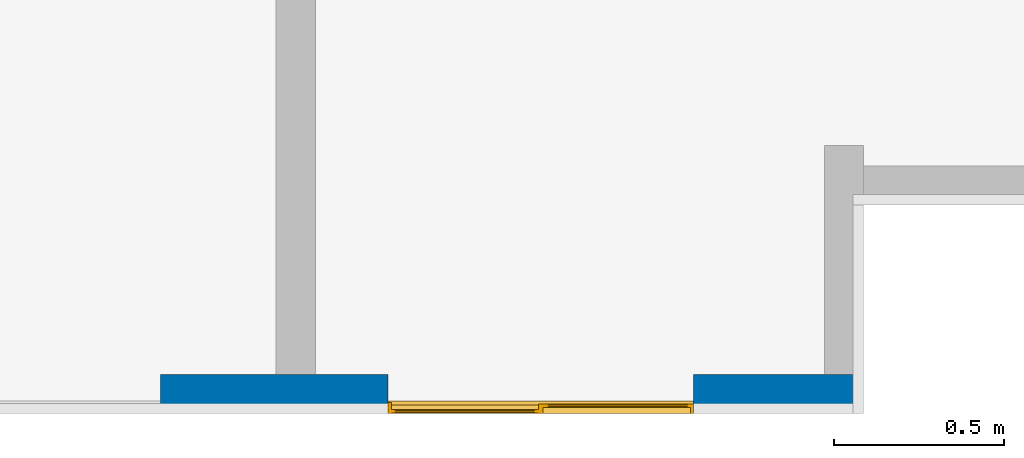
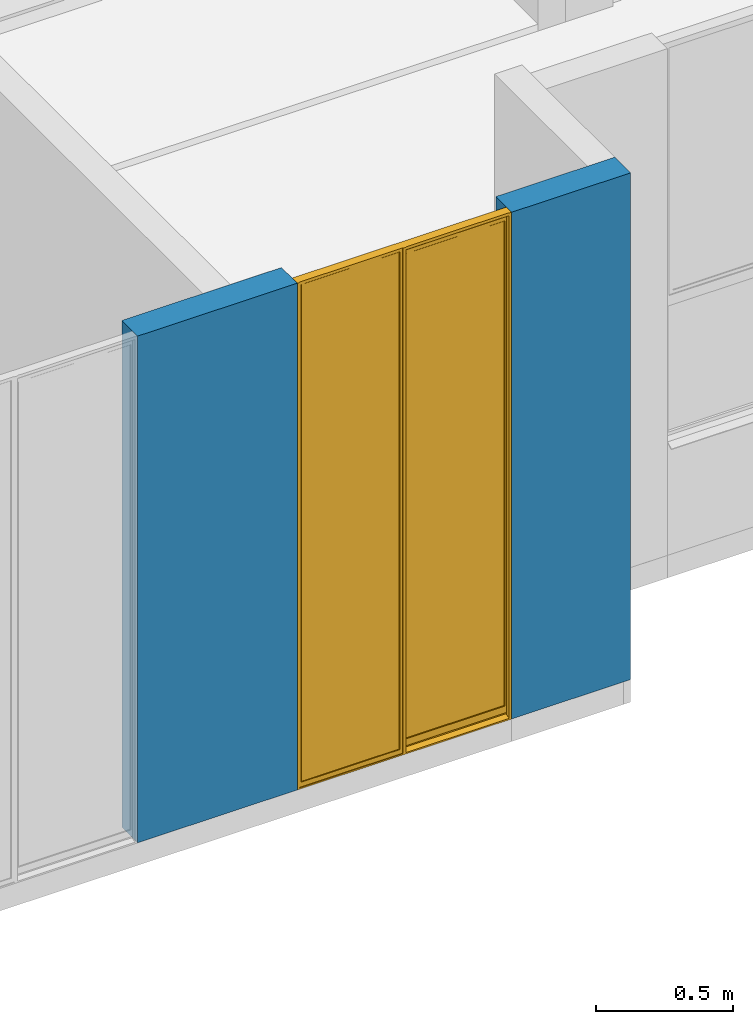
# One storey, part 4 of 48: 1 wall, 1 window, 2 openings.
"""IFC4 building model written with IfcOpenShell, lengths in metres."""

from ifc_helpers import new_model, entity, si_unit, converted_unit, derived_unit, direction, frame, origin, place, context, subcontext, project, spatial, indexed_curve, outline, extrude, polygons, source, transform, mapped, material, constituent, constituent_set, type_object, type_shapes, element, fill, save


model = new_model("IFC4")

# Units and contexts
model_context = context("Model", 3, precision=1e-05, world=origin(), true_north=direction((6.123031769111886e-17, 1.0)))
body_context = subcontext(model_context, "Body", "Model", "MODEL_VIEW")
ifc_project = project(units=[si_unit("LENGTHUNIT", "METRE"), si_unit("AREAUNIT", "SQUARE_METRE"), si_unit("VOLUMEUNIT", "CUBIC_METRE"), converted_unit("PLANEANGLEUNIT", "DEGREE", entity("IfcRatioMeasure", 0.017453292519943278), si_unit("PLANEANGLEUNIT", "RADIAN"), dimensions=[0, 0, 0, 0, 0, 0, 0]), si_unit("MASSUNIT", "GRAM", prefix="KILO"), derived_unit("MASSDENSITYUNIT", [(si_unit("MASSUNIT", "GRAM", prefix="KILO"), 1), (si_unit("LENGTHUNIT", "METRE"), -3)]), derived_unit("IONCONCENTRATIONUNIT", [(si_unit("MASSUNIT", "GRAM", prefix="KILO"), 1), (si_unit("LENGTHUNIT", "METRE"), -3)]), derived_unit("MOMENTOFINERTIAUNIT", [(si_unit("LENGTHUNIT", "METRE"), 4)]), si_unit("TIMEUNIT", "SECOND"), si_unit("FREQUENCYUNIT", "HERTZ"), si_unit("THERMODYNAMICTEMPERATUREUNIT", "DEGREE_CELSIUS"), derived_unit("THERMALTRANSMITTANCEUNIT", [(si_unit("MASSUNIT", "GRAM", prefix="KILO"), 1), (si_unit("THERMODYNAMICTEMPERATUREUNIT", "KELVIN"), -1), (si_unit("TIMEUNIT", "SECOND"), -3)]), derived_unit("THERMALCONDUCTANCEUNIT", [(si_unit("MASSUNIT", "GRAM", prefix="KILO"), 1), (si_unit("THERMODYNAMICTEMPERATUREUNIT", "KELVIN"), -1), (si_unit("TIMEUNIT", "SECOND"), -3), (si_unit("LENGTHUNIT", "METRE"), 1)]), derived_unit("VOLUMETRICFLOWRATEUNIT", [(si_unit("LENGTHUNIT", "METRE"), 3), (si_unit("TIMEUNIT", "SECOND"), -1)]), derived_unit("MASSFLOWRATEUNIT", [(si_unit("MASSUNIT", "GRAM", prefix="KILO"), 1), (si_unit("TIMEUNIT", "SECOND"), -1)]), derived_unit("ROTATIONALFREQUENCYUNIT", [(si_unit("TIMEUNIT", "SECOND"), -1)]), si_unit("ELECTRICCURRENTUNIT", "AMPERE"), si_unit("ELECTRICVOLTAGEUNIT", "VOLT"), si_unit("POWERUNIT", "WATT"), si_unit("FORCEUNIT", "NEWTON", prefix="KILO"), si_unit("ILLUMINANCEUNIT", "LUX"), si_unit("LUMINOUSFLUXUNIT", "LUMEN"), si_unit("LUMINOUSINTENSITYUNIT", "CANDELA"), derived_unit("USERDEFINED", [(si_unit("MASSUNIT", "GRAM", prefix="KILO"), -1), (si_unit("LENGTHUNIT", "METRE"), -2), (si_unit("TIMEUNIT", "SECOND"), 3), (si_unit("LUMINOUSFLUXUNIT", "LUMEN"), 1)]), derived_unit("USERDEFINED", [(si_unit("MASSUNIT", "GRAM", prefix="KILO"), 1), (si_unit("TIMEUNIT", "SECOND"), -3), (si_unit("LENGTHUNIT", "METRE"), 3), (si_unit("ELECTRICCURRENTUNIT", "AMPERE"), -2)]), derived_unit("SOUNDPOWERUNIT", [(si_unit("MASSUNIT", "GRAM", prefix="KILO"), 1), (si_unit("TIMEUNIT", "SECOND"), -3), (si_unit("LENGTHUNIT", "METRE"), 2)]), derived_unit("SOUNDPRESSUREUNIT", [(si_unit("MASSUNIT", "GRAM", prefix="KILO"), 1), (si_unit("LENGTHUNIT", "METRE"), -1), (si_unit("TIMEUNIT", "SECOND"), -2)]), derived_unit("LINEARVELOCITYUNIT", [(si_unit("LENGTHUNIT", "METRE"), 1), (si_unit("TIMEUNIT", "SECOND"), -1)]), si_unit("PRESSUREUNIT", "PASCAL"), derived_unit("USERDEFINED", [(si_unit("MASSUNIT", "GRAM", prefix="KILO"), 1), (si_unit("LENGTHUNIT", "METRE"), -2), (si_unit("TIMEUNIT", "SECOND"), -2)]), derived_unit("LINEARFORCEUNIT", [(si_unit("MASSUNIT", "GRAM", prefix="KILO"), 1), (si_unit("TIMEUNIT", "SECOND"), -2)]), derived_unit("PLANARFORCEUNIT", [(si_unit("MASSUNIT", "GRAM", prefix="KILO"), 1), (si_unit("LENGTHUNIT", "METRE"), -1), (si_unit("TIMEUNIT", "SECOND"), -2)]), derived_unit("SPECIFICHEATCAPACITYUNIT", [(si_unit("THERMODYNAMICTEMPERATUREUNIT", "KELVIN"), -1), (si_unit("LENGTHUNIT", "METRE"), 2), (si_unit("TIMEUNIT", "SECOND"), -2)]), derived_unit("HEATINGVALUEUNIT", [(si_unit("LENGTHUNIT", "METRE"), 2), (si_unit("TIMEUNIT", "SECOND"), -2)]), derived_unit("VAPORPERMEABILITYUNIT", [(si_unit("LENGTHUNIT", "METRE"), -1), (si_unit("TIMEUNIT", "SECOND"), 1)]), derived_unit("DYNAMICVISCOSITYUNIT", [(si_unit("MASSUNIT", "GRAM", prefix="KILO"), 1), (si_unit("TIMEUNIT", "SECOND"), -1), (si_unit("LENGTHUNIT", "METRE"), -1)]), derived_unit("THERMALEXPANSIONCOEFFICIENTUNIT", [(si_unit("THERMODYNAMICTEMPERATUREUNIT", "KELVIN"), -1)]), derived_unit("MODULUSOFELASTICITYUNIT", [(si_unit("MASSUNIT", "GRAM", prefix="KILO"), 1), (si_unit("LENGTHUNIT", "METRE"), -1), (si_unit("TIMEUNIT", "SECOND"), -2)]), derived_unit("ISOTHERMALMOISTURECAPACITYUNIT", [(si_unit("LENGTHUNIT", "METRE"), 3), (si_unit("MASSUNIT", "GRAM", prefix="KILO"), -1)]), derived_unit("MOISTUREDIFFUSIVITYUNIT", [(si_unit("TIMEUNIT", "SECOND"), -1), (si_unit("LENGTHUNIT", "METRE"), 2)])], contexts=[model_context])

# Site, building, storey
site_placement = place(None, origin())
site = spatial("IfcSite", under=ifc_project, at=site_placement, Name="Default", CompositionType="ELEMENT")
building_placement = place(site_placement, origin())
building = spatial("IfcBuilding", under=site, at=building_placement, CompositionType="ELEMENT")
storey_placement = place(building_placement, frame((0.0, 0.0, 9.40000000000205)))
storey = spatial("IfcBuildingStorey", under=building, at=storey_placement, Name="Nivel 5", CompositionType="ELEMENT", Elevation=9.40000000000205)

# Wall, openings, window
ifc_material_1 = material(Name="Ladrillo claro (Aire)", Category="Materials")
wall_type = type_object("IfcWallType", Name="Basic Wall:B2010 - 0.115m - Muro exterior en mampostería - Ladrillo", PredefinedType="STANDARD")
wall_placement = place(storey_placement, frame((6.182499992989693, -12.812500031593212, 0.0), z_axis=(0.0, 0.0, 1.0), x_axis=(-1.0, 0.0, 0.0)))
wall = element("IfcWall", 1, at=wall_placement, inside=storey, type_object=wall_type, material=ifc_material_1, Name="Basic Wall:B2010 - 0.115m - Muro exterior en mampostería - Ladrillo", ObjectType="Basic Wall:B2010 - 0.115m - Muro exterior en mampostería - Ladrillo", PredefinedType="NOTDEFINED", context=body_context, shape_type="Tessellation", body=[
    polygons([(7.744918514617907e-16, -0.057499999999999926, 2.250000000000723), (7.744918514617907e-16, -0.057499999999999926, -1.0828671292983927e-15), (0.11500000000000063, -0.057499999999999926, -1.0828671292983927e-15), (0.5000000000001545, -0.057499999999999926, -1.0828671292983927e-15), (0.5000000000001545, -0.057499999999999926, 2.250000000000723), (0.11500000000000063, -0.057499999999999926, 2.250000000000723), (1.371029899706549e-16, 0.057499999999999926, -1.0828671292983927e-15), (0.500000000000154, 0.057499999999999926, -1.0828671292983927e-15), (0.500000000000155, 0.057499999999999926, 2.250000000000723), (1.371029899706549e-16, 0.057499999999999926, 2.250000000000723)], [[[1, 2, 3, 4, 5, 6]], [[2, 7, 8, 4, 3]], [[5, 4, 8, 9]], [[2, 1, 10, 7]], [[10, 1, 6, 5, 9]], [[7, 10, 9, 8]]], closed=True),
    polygons([(2.0707999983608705, 0.057499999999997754, 2.250000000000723), (2.0707999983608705, 0.057499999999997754, -1.0828671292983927e-15), (1.4000000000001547, 0.057499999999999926, -1.0828671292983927e-15), (1.4000000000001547, 0.057499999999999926, 2.250000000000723), (2.07079999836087, -0.05750000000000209, 2.250000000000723), (1.4000000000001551, -0.057499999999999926, 2.250000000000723), (1.6149999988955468, -0.057499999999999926, 2.250000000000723), (1.7299999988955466, -0.057499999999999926, 2.250000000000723), (2.07079999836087, -0.05750000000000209, -1.0828671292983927e-15), (1.4000000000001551, -0.057499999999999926, -1.0828671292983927e-15), (1.729999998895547, -0.057499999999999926, -1.0828671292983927e-15), (1.6149999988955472, -0.057499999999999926, -1.0828671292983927e-15)], [[[1, 2, 3, 4]], [[5, 1, 4, 6, 7, 8]], [[5, 9, 2, 1]], [[10, 6, 4, 3]], [[2, 9, 11, 12, 10, 3]], [[9, 5, 8, 7, 6, 10, 12, 11]]], closed=True),
])
opening_1_placement = place(wall_placement, frame((3.0907999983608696, 0.057499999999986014, 0.0)))
element("IfcOpeningElement", 2, at=opening_1_placement, cuts=wall, Name="B2020 - Ventana corrediza 2C - Aluminio + Vidrio:B2020 - 1.02m x 2.25m - Ventana corrediza 2C - Aluminio + Vidrio:1", PredefinedType="OPENING", context=body_context, shape_type="SweptSolid", body=[
    extrude(outline(indexed_curve([(0.0, -7.326610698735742e-30), (2.2499999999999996, -7.326610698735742e-30), (2.249999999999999, 1.0199999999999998), (0.0, 1.0199999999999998), (0.0, -7.326610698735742e-30)], self_intersect=False)), frame((0.0, 0.0, 0.0), z_axis=(0.0, -1.0, 0.0), x_axis=(0.0, 0.0, 1.0)), (0.0, 0.0, 1.0), 0.115),
])
opening_2_placement = place(wall_placement, frame((1.4000000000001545, 0.05749999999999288, 0.0)))
opening_2 = element("IfcOpeningElement", 3, at=opening_2_placement, cuts=wall, Name="B2020 - Ventana corrediza 2C - Aluminio + Vidrio:B2020 - 0.90m x 2.25m - Ventana corrediza 2C - Aluminio + Vidrio:1", PredefinedType="OPENING", context=body_context, shape_type="SweptSolid", body=[
    extrude(outline(indexed_curve([(0.0, 1.3535839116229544e-16), (2.2499999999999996, 1.3535839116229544e-16), (2.249999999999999, 0.9), (0.0, 0.9), (0.0, 1.3535839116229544e-16)], self_intersect=False)), frame((0.0, 0.0, 0.0), z_axis=(0.0, -1.0, 0.0), x_axis=(0.0, 0.0, 1.0)), (0.0, 0.0, 1.0), 0.115),
])
ifc_material_2 = material(Name="Vidrio", Category="Materials")
ifc_constituent_1 = constituent(ifc_material_2, Name="Vidrio", Category="Materials")
ifc_material_3 = material(Name="<Unnamed>")
ifc_constituent_2 = constituent(ifc_material_3, Name="<Unnamed>")
ifc_constituent_set_1 = constituent_set(constituents=[ifc_constituent_1, ifc_constituent_2])
ifc_constituent_3 = constituent(ifc_material_2, Name="Vidrio", Category="Materials")
ifc_constituent_4 = constituent(ifc_material_3, Name="<Unnamed>")
ifc_constituent_set_2 = constituent_set(constituents=[ifc_constituent_3, ifc_constituent_4])
window_type = type_object("IfcWindowType", Name="B2020 - Ventana corrediza 2C - Aluminio + Vidrio:B2020 - 0.90m x 2.25m - Ventana corrediza 2C - Aluminio + Vidrio", PartitioningType="NOTDEFINED", PredefinedType="WINDOW", material=ifc_constituent_set_2)
shared_shape = source(origin(), body_context, "Body", "Tessellation", [
    polygons([(0.4701871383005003, 0.11311505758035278, 0.028641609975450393), (0.8800323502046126, 0.11311505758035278, 0.028641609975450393), (0.8800323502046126, 0.10801372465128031, 0.028641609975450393), (0.4701871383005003, 0.10801372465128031, 0.028641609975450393), (0.4701871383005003, 0.11311505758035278, 2.2347073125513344), (0.4701871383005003, 0.10801372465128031, 2.2347073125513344), (0.8800323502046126, 0.10801372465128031, 2.2347073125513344), (0.8800323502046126, 0.11311505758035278, 2.2347073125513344)], [[[1, 2, 3, 4]], [[5, 1, 4, 6]], [[6, 4, 3, 7]], [[7, 3, 2, 8]], [[8, 2, 1, 5]], [[5, 6, 7, 8]]], closed=True),
    polygons([(0.01884633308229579, 0.0962952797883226, 0.054189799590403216), (0.4282710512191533, 0.0962952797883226, 0.054189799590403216), (0.4282710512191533, 0.09199928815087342, 0.054189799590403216), (0.01884633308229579, 0.09199928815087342, 0.054189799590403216), (0.01884633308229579, 0.0962952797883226, 2.2043993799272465), (0.01884633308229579, 0.09199928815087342, 2.2043993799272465), (0.4282710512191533, 0.09199928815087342, 2.2043993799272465), (0.4282710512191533, 0.0962952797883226, 2.2043993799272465)], [[[1, 2, 3, 4]], [[5, 1, 4, 6]], [[6, 4, 3, 7]], [[7, 3, 2, 8]], [[8, 2, 1, 5]], [[5, 6, 7, 8]]], closed=True),
    polygons([(1.610764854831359e-14, 0.08248628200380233, 0.020380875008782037), (1.610764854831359e-14, 0.07981389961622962, 0.020380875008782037), (1.610764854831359e-14, 0.07981389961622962, 0.025674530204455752), (1.610764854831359e-14, 0.08106389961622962, 0.025674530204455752), (1.610764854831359e-14, 0.08106389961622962, 0.02163087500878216), (1.610764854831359e-14, 0.08373628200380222, 0.02163087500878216), (1.610764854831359e-14, 0.08373628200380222, 0.017447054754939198), (1.610764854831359e-14, 0.08932238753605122, 0.017447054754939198), (1.610764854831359e-14, 0.08932238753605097, 2.24863686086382), (1.5972290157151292e-14, 0.0810593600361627, 2.24863686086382), (1.5972290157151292e-14, 0.0810593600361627, 2.2365872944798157), (1.5972290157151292e-14, 0.07969622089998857, 2.2365872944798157), (1.5972290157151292e-14, 0.07969622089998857, 2.2499999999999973), (1.610764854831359e-14, 0.11748628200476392, 2.2499999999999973), (1.5972290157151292e-14, 0.1174862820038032, -2.5718094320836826e-15), (1.610764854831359e-14, 0.08248628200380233, -2.5718094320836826e-15), (0.900000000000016, 0.08248628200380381, 0.020380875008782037), (0.900000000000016, 0.08248628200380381, -2.5718094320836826e-15), (0.900000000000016, 0.11748628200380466, -2.5718094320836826e-15), (0.45664549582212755, 0.11748628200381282, 2.2499999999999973), (0.45664549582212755, 0.11748628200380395, 0.006176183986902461), (0.8900000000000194, 0.11748628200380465, 0.006176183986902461), (0.8900000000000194, 0.11748628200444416, 2.2499999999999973), (0.900000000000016, 0.11748628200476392, 2.2499999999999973), (0.009897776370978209, 0.11748628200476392, 2.2499999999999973), (0.009897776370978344, 0.1174862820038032, 0.006176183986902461), (0.4433545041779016, 0.11748628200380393, 0.006176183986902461), (0.4433545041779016, 0.11748628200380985, 2.2499999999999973), (0.016298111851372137, 0.0893223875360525, 2.2069861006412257), (0.4433545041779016, 0.0893223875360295, 2.2069861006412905), (0.4433545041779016, 0.08932238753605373, 2.2043993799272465), (0.430819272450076, 0.08932238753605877, 2.2043993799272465), (0.4308192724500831, 0.08932238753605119, 0.0519155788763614), (0.01629811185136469, 0.08932238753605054, 0.0519155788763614), (0.016298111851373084, 0.08932238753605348, 2.237270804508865), (0.01629811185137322, 0.08932238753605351, 2.24863686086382), (0.0037628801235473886, 0.08932238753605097, 0.017447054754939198), (0.0037628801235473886, 0.0893223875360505, 0.02163087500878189), (0.4433545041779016, 0.0893223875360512, 0.021630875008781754), (0.4433545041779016, 0.08932238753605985, 0.017447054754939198), (0.4580471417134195, 0.08932238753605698, 0.017447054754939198), (0.4580471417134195, 0.0893223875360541, 2.24863686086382), (0.4433545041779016, 0.08932238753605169, 2.24863686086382), (0.4433545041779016, 0.08932238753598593, 2.237270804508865), (0.900000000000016, 0.08373628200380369, 0.017447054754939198), (0.900000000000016, 0.08548628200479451, 0.017447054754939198), (0.8900000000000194, 0.08548628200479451, 0.017447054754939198), (0.8900000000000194, 0.09284764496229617, 0.017447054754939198), (0.4580471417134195, 0.09284764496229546, 0.017447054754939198), (0.4433545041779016, 0.09284764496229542, 0.017447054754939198), (0.0037628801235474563, 0.09284764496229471, 0.017447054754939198), (0.900000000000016, 0.08373628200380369, 0.02163087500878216), (0.900000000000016, 0.08106389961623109, 0.02163087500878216), (0.900000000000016, 0.08106389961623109, 0.025674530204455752), (0.900000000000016, 0.07981389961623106, 0.025674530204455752), (0.900000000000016, 0.07981389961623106, 0.020380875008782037), (0.01884290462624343, 0.09629339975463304, 0.054191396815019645), (0.4282772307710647, 0.09629080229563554, 0.054191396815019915), (0.4308192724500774, 0.09897218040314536, 0.051915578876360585), (0.016298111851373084, 0.09897218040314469, 0.051915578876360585), (0.01629811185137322, 0.09897218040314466, 2.237270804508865), (0.01629811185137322, 0.09897218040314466, 2.24863686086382), (0.018846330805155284, 0.0962732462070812, 2.24863686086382), (0.018846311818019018, 0.0962733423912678, 2.237270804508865), (0.430819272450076, 0.09897218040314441, 2.2043993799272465), (0.4433545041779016, 0.09897218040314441, 2.2043993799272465), (0.4433545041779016, 0.09897218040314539, 0.02163087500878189), (0.009897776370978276, 0.09897218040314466, 0.021630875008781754), (0.009897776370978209, 0.09897218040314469, 2.24863686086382), (0.4433545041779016, 0.09897218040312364, 2.237270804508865), (0.4433545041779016, 0.09897218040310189, 2.2069861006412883), (0.01629811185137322, 0.09897218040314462, 2.2069861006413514), (0.4282710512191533, 0.09628602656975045, 2.2043993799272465), (0.01884015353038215, 0.09200376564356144, 0.05419139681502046), (0.42827447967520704, 0.09200116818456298, 0.05419139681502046), (0.018846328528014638, 0.09202132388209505, 2.24863686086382), (0.01884629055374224, 0.09202124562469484, 2.237270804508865), (0.4282710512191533, 0.09200843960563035, 2.204399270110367), (0.4580471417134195, 0.09284764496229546, 0.011279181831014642), (0.4580471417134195, 0.09612320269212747, 0.010600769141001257), (0.4580471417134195, 0.09612320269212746, 0.014402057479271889), (0.4580471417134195, 0.10582811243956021, 0.014402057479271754), (0.4580471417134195, 0.1058281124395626, 2.24863686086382), (0.4433545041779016, 0.09199945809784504, 2.204399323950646), (0.0037628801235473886, 0.09897218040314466, 0.02163087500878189), (0.0037628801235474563, 0.09284764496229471, 0.011279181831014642), (0.0037628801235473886, 0.09897218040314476, 0.010010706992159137), (0.009897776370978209, 0.09897218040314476, 0.010010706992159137), (0.009897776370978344, 0.1153006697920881, 2.2499999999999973), (0.009897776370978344, 0.11530066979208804, 2.2369062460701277), (0.009897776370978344, 0.11310173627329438, 2.234707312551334), (0.009897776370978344, 0.1080270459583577, 2.234707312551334), (0.009897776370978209, 0.10582811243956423, 2.2369062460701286), (0.009897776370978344, 0.10582811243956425, 2.24863686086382), (0.900000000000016, 0.07969622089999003, 2.2499999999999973), (0.900000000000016, 0.07969622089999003, 2.2365872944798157), (0.900000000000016, 0.08105936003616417, 2.2365872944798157), (0.900000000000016, 0.08105936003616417, 2.24863686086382), (0.900000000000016, 0.08548628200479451, 2.24863686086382), (0.8900000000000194, 0.08548628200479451, 2.24863686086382), (0.8900000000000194, 0.09284764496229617, 0.011279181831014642), (0.8900000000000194, 0.10582811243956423, 2.24863686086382), (0.8900000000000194, 0.10582811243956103, 0.014402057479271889), (0.8900000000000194, 0.09612320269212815, 0.014402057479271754), (0.8900000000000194, 0.09612320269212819, 0.010600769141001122), (0.45664549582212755, 0.1153006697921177, 0.006628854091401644), (0.45664549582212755, 0.11530066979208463, 2.2499999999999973), (0.8900000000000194, 0.11530066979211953, 0.0066288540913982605), (0.8900000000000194, 0.11530066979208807, 2.2499999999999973), (0.4433545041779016, 0.11530066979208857, 2.2499999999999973), (0.4433545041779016, 0.1153006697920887, 2.2369062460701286), (0.4676389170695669, 0.11530066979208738, 0.026824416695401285), (0.46763891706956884, 0.11530066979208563, 2.236906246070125), (0.4701871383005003, 0.1131150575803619, 2.234713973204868), (0.4701871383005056, 0.11311505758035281, 0.028641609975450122), (0.8800323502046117, 0.11311505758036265, 0.028641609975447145), (0.8800323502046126, 0.11311505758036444, 2.2347139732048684), (0.8825805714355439, 0.11530066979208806, 2.236906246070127), (0.8825805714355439, 0.1153006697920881, 0.026824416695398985), (0.8800323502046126, 0.10801372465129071, 0.02864160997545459), (0.47018713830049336, 0.10801372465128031, 0.028641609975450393), (0.46763891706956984, 0.10582811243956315, 0.02682441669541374), (0.8825805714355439, 0.10582811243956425, 0.026824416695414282), (0.46763891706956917, 0.10582811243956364, 2.2369062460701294), (0.8825805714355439, 0.10582811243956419, 2.2369062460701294), (0.8800311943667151, 0.108016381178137, 2.2347113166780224), (0.47018829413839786, 0.10801638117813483, 2.234711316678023), (0.4433545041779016, 0.09629516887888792, 2.204399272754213), (0.018846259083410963, 0.09627365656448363, 2.204388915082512), (0.018844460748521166, 0.09201660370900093, 2.2043931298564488), (0.4433545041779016, 0.10582811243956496, 2.24863686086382), (0.4433545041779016, 0.10802704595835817, 2.2347073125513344), (0.4433545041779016, 0.10582811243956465, 2.2369062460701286), (0.4433545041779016, 0.11310173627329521, 2.2347073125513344), (0.4433545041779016, 0.09284764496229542, 0.011279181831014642)], [[[1, 2, 3, 4, 5, 6, 7, 8, 9, 10, 11, 12, 13, 14, 15, 16]], [[17, 1, 16, 18]], [[16, 15, 19, 18]], [[20, 21, 22, 23, 24, 19, 15, 14, 25, 26, 27, 28]], [[35, 36, 9, 8, 37, 38, 39, 40, 41, 42, 43, 44], [29, 30, 31, 32, 33, 34]], [[45, 46, 47, 48, 49, 41, 40, 50, 51, 37, 8, 7]], [[45, 7, 6, 52]], [[52, 6, 5, 53]], [[53, 5, 4, 54]], [[54, 4, 3, 55]], [[55, 3, 2, 56]], [[56, 2, 1, 17]], [[57, 58, 59, 60]], [[61, 62, 63, 64]], [[60, 59, 65, 66, 67, 68, 69, 62, 61, 70, 71, 72]], [[65, 59, 58, 73]], [[74, 75, 58, 57]], [[64, 63, 76, 77]], [[58, 75, 78, 73]], [[34, 33, 75, 74]], [[77, 76, 36, 35]], [[78, 75, 33, 32]], [[49, 79, 80, 81, 82, 83, 42, 41]], [[84, 31, 30]], [[39, 38, 85, 68, 67]], [[85, 38, 37, 51, 86, 87]], [[68, 85, 87, 88]], [[25, 89, 90, 91, 92, 93, 94, 69, 68, 88, 26]], [[17, 18, 19, 24, 95, 96, 97, 98, 99, 46, 45, 52, 53, 54, 55, 56]], [[46, 99, 100, 47]], [[49, 48, 101, 79]], [[47, 100, 102, 103, 104, 105, 101, 48]], [[79, 101, 105, 80]], [[106, 21, 20, 107]], [[23, 22, 108, 109]], [[110, 111, 90, 89]], [[80, 105, 104, 81]], [[112, 113, 114, 115]], [[116, 117, 118, 119]], [[119, 112, 115, 116]], [[120, 121, 122, 123]], [[103, 102, 83, 82], [122, 124, 125, 123]], [[123, 125, 126, 120]], [[121, 127, 124, 122]], [[81, 104, 103, 82]], [[120, 126, 117, 116]], [[116, 115, 121, 120]], [[115, 114, 127, 121]], [[13, 95, 24, 23, 109, 107, 20, 28, 110, 89, 25, 14]], [[72, 71, 128, 73, 129]], [[129, 73, 78, 130]], [[130, 78, 84, 30, 29]], [[77, 35, 44, 70, 61, 64]], [[31, 84, 78, 32]], [[97, 11, 10, 98]], [[96, 12, 11, 97]], [[95, 13, 12, 96]], [[118, 117, 114, 113]], [[127, 114, 117, 126]], [[124, 127, 126, 125]], [[10, 9, 36, 76, 63, 62, 69, 94, 131, 43, 42, 83, 102, 100, 99, 98]], [[132, 133, 93, 92]], [[134, 132, 92, 91]], [[111, 134, 91, 90]], [[73, 128, 66, 65]], [[133, 131, 94, 93]], [[109, 108, 106, 107], [112, 119, 118, 113]], [[106, 108, 22, 21]], [[27, 26, 88, 87, 86, 135]], [[135, 86, 51, 50]], [[27, 135, 50, 40, 39, 67, 66, 128, 71, 70, 44, 43, 131, 133, 132, 134, 111, 110, 28]], [[74, 130, 29, 34]], [[57, 129, 130, 74]], [[60, 72, 129, 57]]], closed=True),
])
type_shapes(window_type, [shared_shape])
window_placement = place(opening_2_placement, frame((-0.9000000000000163, -0.11748628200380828, 0.0)))
window = element("IfcWindow", 4, at=window_placement, inside=storey, type_object=window_type, material=ifc_constituent_set_1, Name="B2020 - Ventana corrediza 2C - Aluminio + Vidrio:B2020 - 0.90m x 2.25m - Ventana corrediza 2C - Aluminio + Vidrio", ObjectType="B2020 - Ventana corrediza 2C - Aluminio + Vidrio:B2020 - 0.90m x 2.25m - Ventana corrediza 2C - Aluminio + Vidrio", OverallHeight=2.2499999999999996, OverallWidth=0.9000000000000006, PartitioningType="NOTDEFINED", PredefinedType="WINDOW", context=body_context, shape_type="MappedRepresentation", body=[
    mapped(shared_shape, transform((0.0, 0.0, 0.0), scale=1.0)),
])
fill(opening_2, window)

save(model, "model.ifc")
